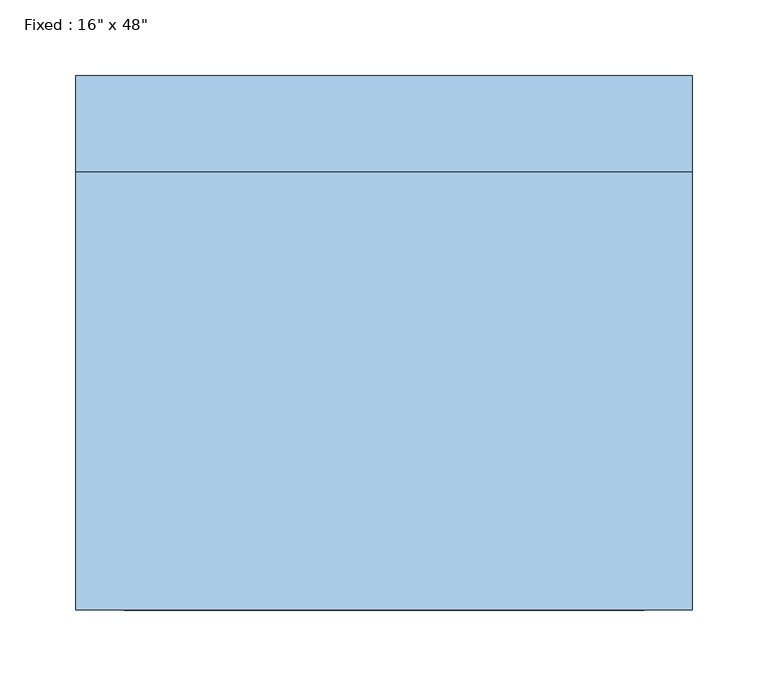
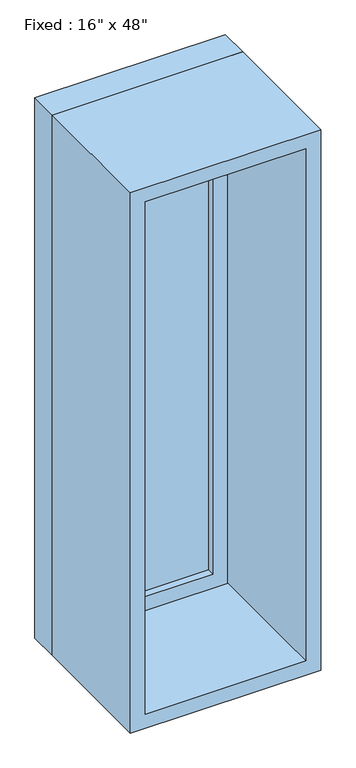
"""IFC4 building model written with IfcOpenShell, lengths in millimetres: window geometry."""

from ifc_helpers import new_model, si_unit, frame, origin, place, context, project, spatial, polyline, outline, extrude, source, transform, mapped, element, save


def window_da97879f(model_context):
    return source(origin(), model_context, "Body", "SweptSolid", [
        extrude(outline(polyline([(101.6, 128.5875), (-177.8, 128.5875), (-177.8, 141.2875), (101.6, 141.2875), (101.6, 128.5875)])), frame((0.0, 0.0, 977.9), z_axis=(0.0, 0.0, 1.0), x_axis=(1.0, 0.0, 0.0)), (0.0, 0.0, 1.0), 1092.2),
        extrude(outline(polyline([(2114.55, -222.25), (933.45, -222.25), (933.45, 146.05), (2114.55, 146.05), (2114.55, -222.25)]), holes=[polyline([(2070.1, -177.8), (2070.1, 101.6), (977.9, 101.6), (977.9, -177.8), (2070.1, -177.8)])]), frame((0.0, 112.7125, 0.0), z_axis=(0.0, 1.0, 0.0), x_axis=(0.0, 0.0, 1.0)), (0.0, 0.0, 1.0), 44.45),
        extrude(outline(polyline([(2133.6, -241.3), (914.4, -241.3), (914.4, 165.1), (2133.6, 165.1), (2133.6, -241.3)]), holes=[polyline([(2101.85, -209.55), (2101.85, 133.35), (946.15, 133.35), (946.15, -209.55), (2101.85, -209.55)])]), frame((0.0, -176.2125, 0.0), z_axis=(0.0, 1.0, 0.0), x_axis=(0.0, 0.0, 1.0)), (0.0, 0.0, 1.0), 288.925),
        extrude(outline(polyline([(2133.6, 165.1), (2133.6, -241.3), (914.4, -241.3), (914.4, 165.1), (2133.6, 165.1)]), holes=[polyline([(2114.55, 146.05), (933.45, 146.05), (933.45, -222.25), (2114.55, -222.25), (2114.55, 146.05)])]), frame((0.0, 112.7125, 0.0), z_axis=(0.0, 1.0, 0.0), x_axis=(0.0, 0.0, 1.0)), (0.0, 0.0, 1.0), 63.5),
    ])


if __name__ == "__main__":
    model = new_model("IFC4")
    model_context = context("Model", 3, world=origin())
    ifc_project = project(units=[si_unit("LENGTHUNIT", "METRE", prefix="MILLI")], contexts=[model_context])
    site = spatial("IfcSite", under=ifc_project)
    building = spatial("IfcBuilding", under=site)
    placement = place(None, origin())
    window_shape = window_da97879f(model_context)
    element("IfcWindow", 1, ObjectType="Fixed : 16\" x 48\"", at=placement, inside=building, context=model_context, shape_type="MappedRepresentation", body=[
        mapped(window_shape, transform((0.0, 0.0, 0.0), x_axis=(1.0, 0.0, 0.0), y_axis=(0.0, 1.0, 0.0), z_axis=(0.0, 0.0, 1.0))),
    ])
    save(model, "model.ifc")
